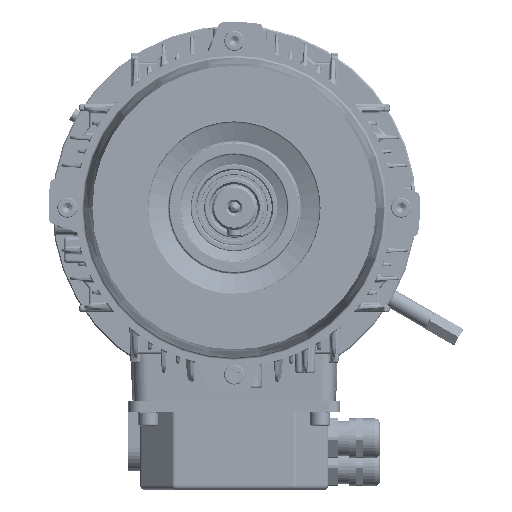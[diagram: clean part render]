
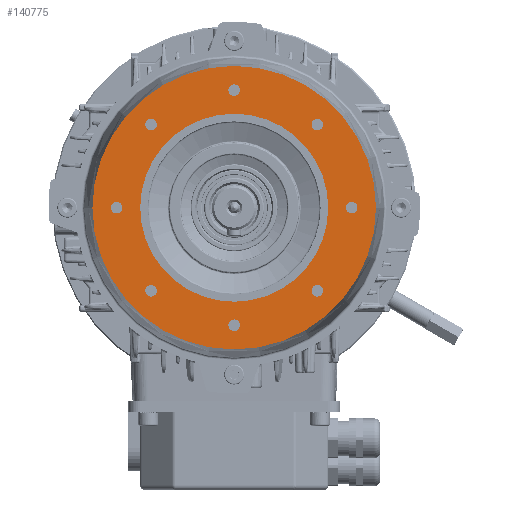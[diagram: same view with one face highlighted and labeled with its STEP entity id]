
A CAD part, left-side view. The second image highlights one B-rep face of the part: STEP entity #140775.
In plain terms, the highlighted planar face has unit normal (-1, 0, 0).
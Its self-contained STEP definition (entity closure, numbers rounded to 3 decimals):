
#1119=FACE_BOUND('',#36940,.T.);
#1120=FACE_BOUND('',#36941,.T.);
#1121=FACE_BOUND('',#36942,.T.);
#1122=FACE_BOUND('',#36943,.T.);
#1123=FACE_BOUND('',#36944,.T.);
#1124=FACE_BOUND('',#36945,.T.);
#1125=FACE_BOUND('',#36946,.T.);
#1126=FACE_BOUND('',#36947,.T.);
#1127=FACE_BOUND('',#36948,.T.);
#3005=PLANE('',#151228);
#28087=FACE_OUTER_BOUND('',#36939,.T.);
#36939=EDGE_LOOP('',(#98827));
#36940=EDGE_LOOP('',(#98828));
#36941=EDGE_LOOP('',(#98829));
#36942=EDGE_LOOP('',(#98830));
#36943=EDGE_LOOP('',(#98831));
#36944=EDGE_LOOP('',(#98832));
#36945=EDGE_LOOP('',(#98833));
#36946=EDGE_LOOP('',(#98834));
#36947=EDGE_LOOP('',(#98835));
#36948=EDGE_LOOP('',(#98836));
#47446=CIRCLE('',#151200,2.459);
#47448=CIRCLE('',#151203,2.459);
#47450=CIRCLE('',#151206,2.459);
#47452=CIRCLE('',#151209,2.459);
#47454=CIRCLE('',#151212,2.459);
#47456=CIRCLE('',#151215,2.459);
#47458=CIRCLE('',#151218,2.459);
#47460=CIRCLE('',#151221,2.459);
#47464=CIRCLE('',#151227,40.);
#47465=CIRCLE('',#151229,60.32);
#57259=VERTEX_POINT('',#224493);
#57261=VERTEX_POINT('',#224499);
#57263=VERTEX_POINT('',#224505);
#57265=VERTEX_POINT('',#224511);
#57267=VERTEX_POINT('',#224517);
#57269=VERTEX_POINT('',#224523);
#57271=VERTEX_POINT('',#224529);
#57273=VERTEX_POINT('',#224535);
#57277=VERTEX_POINT('',#224546);
#57278=VERTEX_POINT('',#224550);
#71919=EDGE_CURVE('',#57259,#57259,#47446,.T.);
#71922=EDGE_CURVE('',#57261,#57261,#47448,.T.);
#71925=EDGE_CURVE('',#57263,#57263,#47450,.T.);
#71928=EDGE_CURVE('',#57265,#57265,#47452,.T.);
#71931=EDGE_CURVE('',#57267,#57267,#47454,.T.);
#71934=EDGE_CURVE('',#57269,#57269,#47456,.T.);
#71937=EDGE_CURVE('',#57271,#57271,#47458,.T.);
#71940=EDGE_CURVE('',#57273,#57273,#47460,.T.);
#71945=EDGE_CURVE('',#57277,#57277,#47464,.T.);
#71947=EDGE_CURVE('',#57278,#57278,#47465,.T.);
#98827=ORIENTED_EDGE('',*,*,#71947,.F.);
#98828=ORIENTED_EDGE('',*,*,#71919,.T.);
#98829=ORIENTED_EDGE('',*,*,#71922,.T.);
#98830=ORIENTED_EDGE('',*,*,#71925,.T.);
#98831=ORIENTED_EDGE('',*,*,#71928,.T.);
#98832=ORIENTED_EDGE('',*,*,#71931,.T.);
#98833=ORIENTED_EDGE('',*,*,#71934,.T.);
#98834=ORIENTED_EDGE('',*,*,#71937,.T.);
#98835=ORIENTED_EDGE('',*,*,#71940,.T.);
#98836=ORIENTED_EDGE('',*,*,#71945,.F.);
#140775=ADVANCED_FACE('',(#28087,#1119,#1120,#1121,#1122,#1123,#1124,#1125,
#1126,#1127),#3005,.F.);
#151200=AXIS2_PLACEMENT_3D('',#224494,#174969,#174970);
#151203=AXIS2_PLACEMENT_3D('',#224500,#174976,#174977);
#151206=AXIS2_PLACEMENT_3D('',#224506,#174983,#174984);
#151209=AXIS2_PLACEMENT_3D('',#224512,#174990,#174991);
#151212=AXIS2_PLACEMENT_3D('',#224518,#174997,#174998);
#151215=AXIS2_PLACEMENT_3D('',#224524,#175004,#175005);
#151218=AXIS2_PLACEMENT_3D('',#224530,#175011,#175012);
#151221=AXIS2_PLACEMENT_3D('',#224536,#175018,#175019);
#151227=AXIS2_PLACEMENT_3D('',#224547,#175031,#175032);
#151228=AXIS2_PLACEMENT_3D('',#224549,#175034,#175035);
#151229=AXIS2_PLACEMENT_3D('',#224551,#175036,#175037);
#174969=DIRECTION('center_axis',(1.,0.,0.));
#174970=DIRECTION('ref_axis',(0.,0.707,0.707));
#174976=DIRECTION('center_axis',(1.,0.,0.));
#174977=DIRECTION('ref_axis',(0.,1.,0.));
#174983=DIRECTION('center_axis',(1.,0.,0.));
#174984=DIRECTION('ref_axis',(0.,0.707,-0.707));
#174990=DIRECTION('center_axis',(1.,0.,0.));
#174991=DIRECTION('ref_axis',(0.,0.,
-1.));
#174997=DIRECTION('center_axis',(1.,0.,0.));
#174998=DIRECTION('ref_axis',(0.,-0.707,-0.707));
#175004=DIRECTION('center_axis',(1.,0.,0.));
#175005=DIRECTION('ref_axis',(0.,-1.,0.));
#175011=DIRECTION('center_axis',(1.,0.,0.));
#175012=DIRECTION('ref_axis',(0.,-0.707,
0.707));
#175018=DIRECTION('center_axis',(1.,0.,0.));
#175019=DIRECTION('ref_axis',(0.,0.,
1.));
#175031=DIRECTION('center_axis',(-1.,0.,0.));
#175032=DIRECTION('ref_axis',(0.,1.,0.));
#175034=DIRECTION('center_axis',(1.,0.,0.));
#175035=DIRECTION('ref_axis',(0.,1.,0.));
#175036=DIRECTION('center_axis',(1.,0.,0.));
#175037=DIRECTION('ref_axis',(0.,1.,0.));
#224493=CARTESIAN_POINT('',(-165.25,-1.738,48.262));
#224494=CARTESIAN_POINT('Origin',(-165.25,0.,
50.));
#224499=CARTESIAN_POINT('',(-165.25,32.897,35.355));
#224500=CARTESIAN_POINT('Origin',(-165.25,35.355,35.355));
#224505=CARTESIAN_POINT('',(-165.25,48.262,1.738));
#224506=CARTESIAN_POINT('Origin',(-165.25,50.,0.));
#224511=CARTESIAN_POINT('',(-165.25,35.355,-32.897));
#224512=CARTESIAN_POINT('Origin',(-165.25,35.355,-35.355));
#224517=CARTESIAN_POINT('',(-165.25,1.738,-48.262));
#224518=CARTESIAN_POINT('Origin',(-165.25,0.,
-50.));
#224523=CARTESIAN_POINT('',(-165.25,-32.897,-35.355));
#224524=CARTESIAN_POINT('Origin',(-165.25,-35.355,-35.355));
#224529=CARTESIAN_POINT('',(-165.25,-48.262,-1.738));
#224530=CARTESIAN_POINT('Origin',(-165.25,-50.,0.));
#224535=CARTESIAN_POINT('',(-165.25,-35.355,32.897));
#224536=CARTESIAN_POINT('Origin',(-165.25,-35.355,35.355));
#224546=CARTESIAN_POINT('',(-165.25,-40.,0.));
#224547=CARTESIAN_POINT('Origin',(-165.25,0.,
0.));
#224549=CARTESIAN_POINT('Origin',(-165.25,51.25,0.));
#224550=CARTESIAN_POINT('',(-165.25,-60.32,0.));
#224551=CARTESIAN_POINT('Origin',(-165.25,0.,
0.));
